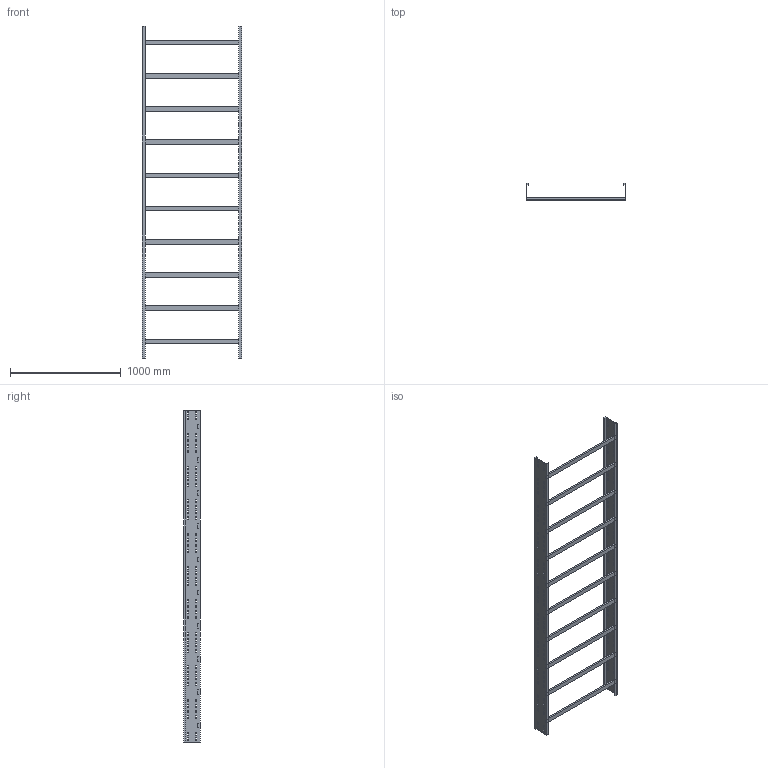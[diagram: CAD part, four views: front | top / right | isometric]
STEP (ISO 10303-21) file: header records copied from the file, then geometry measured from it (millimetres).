
FILE_DESCRIPTION (( 'STEP AP214' ), '1' );
FILE_NAME ('01J3F900.step', '2025-02-21T16:29:37', ( '' ), ( '' ), 'SwSTEP 2.0', 'SolidWorks 2023', '' );
FILE_SCHEMA (( 'AUTOMOTIVE_DESIGN' ));
Length unit declared in the file: millimetre
Products named in the file (3): TRAVERSINO_900; 01J3F900; LONGH.H150
Assembly tree (12 placements, depth 2):
  01J3F900
    LONGH.H150  x2
    TRAVERSINO_900  x10
Bounding box: 900 x 150 x 3000 mm (x, y, z)
Volume: 10437600 mm3; surface area: 3368288 mm2
Topology: 12 solids, 12 shells, 720 faces, 2088 edges, 1392 vertices
Faces by surface type: plane 720
Entity records: 11488 total; most frequent: CARTESIAN_POINT 2011, ORIENTED_EDGE 1992, DIRECTION 1698, VECTOR 996, LINE 996, EDGE_CURVE 996, VERTEX_POINT 664, EDGE_LOOP 496
